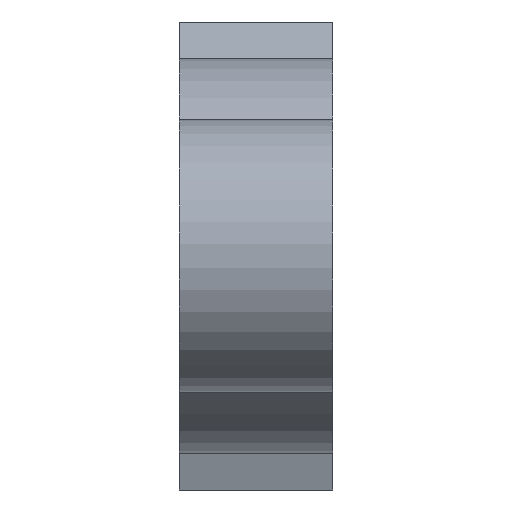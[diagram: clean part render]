
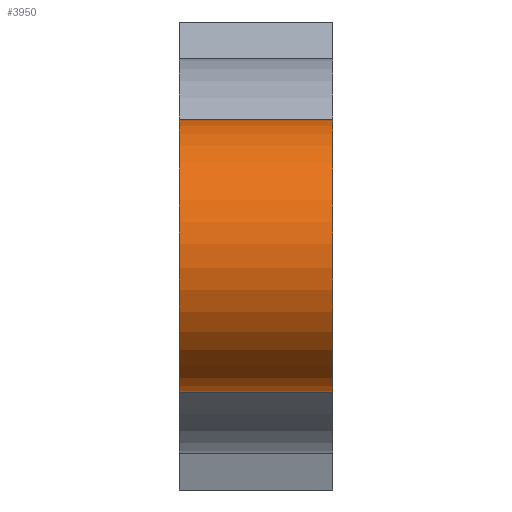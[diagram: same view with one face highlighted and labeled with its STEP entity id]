
A CAD part, left-side view. The second image highlights one B-rep face of the part: STEP entity #3950.
In plain terms, the highlighted cylindrical face has radius 8 mm (diameter 16 mm), a partial arc.
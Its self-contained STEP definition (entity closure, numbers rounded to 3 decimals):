
#21 = EDGE_CURVE('',#22,#24,#26,.T.);
#22 = VERTEX_POINT('',#23);
#23 = CARTESIAN_POINT('',(6.245,46.,-5.));
#24 = VERTEX_POINT('',#25);
#25 = CARTESIAN_POINT('',(6.245,46.,5.));
#26 = SURFACE_CURVE('',#27,(#32,#48),.PCURVE_S1.);
#27 = CIRCLE('',#28,8.);
#28 = AXIS2_PLACEMENT_3D('',#29,#30,#31);
#29 = CARTESIAN_POINT('',(0.,46.,0.));
#30 = DIRECTION('',(0.,1.,0.));
#31 = DIRECTION('',(0.781,0.,-0.625));
#32 = PCURVE('',#33,#38);
#33 = PLANE('',#34);
#34 = AXIS2_PLACEMENT_3D('',#35,#36,#37);
#35 = CARTESIAN_POINT('',(37.5,46.,0.));
#36 = DIRECTION('',(-0.,-1.,-0.));
#37 = DIRECTION('',(0.,0.,-1.));
#38 = DEFINITIONAL_REPRESENTATION('',(#39),#47);
#39 = ( BOUNDED_CURVE() B_SPLINE_CURVE(2,(#40,#41,#42,#43,#44,#45,#46),
.UNSPECIFIED.,.T.,.F.) B_SPLINE_CURVE_WITH_KNOTS((1,2,2,2,2,1),(
    -2.094,0.,2.094,4.189,6.283,
8.378),.UNSPECIFIED.) CURVE() GEOMETRIC_REPRESENTATION_ITEM() 
RATIONAL_B_SPLINE_CURVE((1.,0.5,1.,0.5,1.,0.5,1.)) REPRESENTATION_ITEM(
  '') );
#40 = CARTESIAN_POINT('',(5.,-31.255));
#41 = CARTESIAN_POINT('',(15.817,-39.915));
#42 = CARTESIAN_POINT('',(2.908,-44.953));
#43 = CARTESIAN_POINT('',(-10.,-49.99));
#44 = CARTESIAN_POINT('',(-7.908,-36.292));
#45 = CARTESIAN_POINT('',(-5.817,-22.595));
#46 = CARTESIAN_POINT('',(5.,-31.255));
#47 = ( GEOMETRIC_REPRESENTATION_CONTEXT(2) 
PARAMETRIC_REPRESENTATION_CONTEXT() REPRESENTATION_CONTEXT('2D SPACE',''
  ) );
#48 = PCURVE('',#49,#54);
#49 = CYLINDRICAL_SURFACE('',#50,8.);
#50 = AXIS2_PLACEMENT_3D('',#51,#52,#53);
#51 = CARTESIAN_POINT('',(0.,37.,0.));
#52 = DIRECTION('',(0.,-1.,-0.));
#53 = DIRECTION('',(1.,0.,0.));
#54 = DEFINITIONAL_REPRESENTATION('',(#55),#59);
#55 = LINE('',#56,#57);
#56 = CARTESIAN_POINT('',(-0.675,-9.));
#57 = VECTOR('',#58,1.);
#58 = DIRECTION('',(-1.,0.));
#59 = ( GEOMETRIC_REPRESENTATION_CONTEXT(2) 
PARAMETRIC_REPRESENTATION_CONTEXT() REPRESENTATION_CONTEXT('2D SPACE',''
  ) );
#77 = PLANE('',#78);
#78 = AXIS2_PLACEMENT_3D('',#79,#80,#81);
#79 = CARTESIAN_POINT('',(-10.,37.,-5.));
#80 = DIRECTION('',(0.,0.,1.));
#81 = DIRECTION('',(1.,0.,0.));
#3877 = PLANE('',#3878);
#3878 = AXIS2_PLACEMENT_3D('',#3879,#3880,#3881);
#3879 = CARTESIAN_POINT('',(-10.,37.,5.));
#3880 = DIRECTION('',(0.,0.,1.));
#3881 = DIRECTION('',(1.,0.,0.));
#3950 = ADVANCED_FACE('',(#3951),#49,.T.);
#3951 = FACE_BOUND('',#3952,.F.);
#3952 = EDGE_LOOP('',(#3953,#3984,#4003,#4004));
#3953 = ORIENTED_EDGE('',*,*,#3954,.F.);
#3954 = EDGE_CURVE('',#3955,#3957,#3959,.T.);
#3955 = VERTEX_POINT('',#3956);
#3956 = CARTESIAN_POINT('',(6.245,37.,-5.));
#3957 = VERTEX_POINT('',#3958);
#3958 = CARTESIAN_POINT('',(6.245,37.,5.));
#3959 = SURFACE_CURVE('',#3960,(#3965,#3972),.PCURVE_S1.);
#3960 = CIRCLE('',#3961,8.);
#3961 = AXIS2_PLACEMENT_3D('',#3962,#3963,#3964);
#3962 = CARTESIAN_POINT('',(0.,37.,0.));
#3963 = DIRECTION('',(0.,1.,0.));
#3964 = DIRECTION('',(0.781,0.,-0.625));
#3965 = PCURVE('',#49,#3966);
#3966 = DEFINITIONAL_REPRESENTATION('',(#3967),#3971);
#3967 = LINE('',#3968,#3969);
#3968 = CARTESIAN_POINT('',(-0.675,0.));
#3969 = VECTOR('',#3970,1.);
#3970 = DIRECTION('',(-1.,0.));
#3971 = ( GEOMETRIC_REPRESENTATION_CONTEXT(2) 
PARAMETRIC_REPRESENTATION_CONTEXT() REPRESENTATION_CONTEXT('2D SPACE',''
  ) );
#3972 = PCURVE('',#3973,#3978);
#3973 = PLANE('',#3974);
#3974 = AXIS2_PLACEMENT_3D('',#3975,#3976,#3977);
#3975 = CARTESIAN_POINT('',(0.,37.,0.)
  );
#3976 = DIRECTION('',(0.,1.,0.));
#3977 = DIRECTION('',(0.,-0.,1.));
#3978 = DEFINITIONAL_REPRESENTATION('',(#3979),#3983);
#3979 = CIRCLE('',#3980,8.);
#3980 = AXIS2_PLACEMENT_2D('',#3981,#3982);
#3981 = CARTESIAN_POINT('',(0.,0.));
#3982 = DIRECTION('',(-0.625,0.781));
#3983 = ( GEOMETRIC_REPRESENTATION_CONTEXT(2) 
PARAMETRIC_REPRESENTATION_CONTEXT() REPRESENTATION_CONTEXT('2D SPACE',''
  ) );
#3984 = ORIENTED_EDGE('',*,*,#3985,.F.);
#3985 = EDGE_CURVE('',#22,#3955,#3986,.T.);
#3986 = SURFACE_CURVE('',#3987,(#3991,#3997),.PCURVE_S1.);
#3987 = LINE('',#3988,#3989);
#3988 = CARTESIAN_POINT('',(6.245,37.,-5.));
#3989 = VECTOR('',#3990,1.);
#3990 = DIRECTION('',(0.,-1.,-0.));
#3991 = PCURVE('',#49,#3992);
#3992 = DEFINITIONAL_REPRESENTATION('',(#3993),#3996);
#3993 = B_SPLINE_CURVE_WITH_KNOTS('',1,(#3994,#3995),.UNSPECIFIED.,.F.,
  .F.,(2,2),(-9.,0.),.PIECEWISE_BEZIER_KNOTS.);
#3994 = CARTESIAN_POINT('',(-0.675,-9.));
#3995 = CARTESIAN_POINT('',(-0.675,0.));
#3996 = ( GEOMETRIC_REPRESENTATION_CONTEXT(2) 
PARAMETRIC_REPRESENTATION_CONTEXT() REPRESENTATION_CONTEXT('2D SPACE',''
  ) );
#3997 = PCURVE('',#77,#3998);
#3998 = DEFINITIONAL_REPRESENTATION('',(#3999),#4002);
#3999 = B_SPLINE_CURVE_WITH_KNOTS('',1,(#4000,#4001),.UNSPECIFIED.,.F.,
  .F.,(2,2),(-9.,0.),.PIECEWISE_BEZIER_KNOTS.);
#4000 = CARTESIAN_POINT('',(16.245,9.));
#4001 = CARTESIAN_POINT('',(16.245,0.));
#4002 = ( GEOMETRIC_REPRESENTATION_CONTEXT(2) 
PARAMETRIC_REPRESENTATION_CONTEXT() REPRESENTATION_CONTEXT('2D SPACE',''
  ) );
#4003 = ORIENTED_EDGE('',*,*,#21,.T.);
#4004 = ORIENTED_EDGE('',*,*,#4005,.T.);
#4005 = EDGE_CURVE('',#24,#3957,#4006,.T.);
#4006 = SURFACE_CURVE('',#4007,(#4011,#4017),.PCURVE_S1.);
#4007 = LINE('',#4008,#4009);
#4008 = CARTESIAN_POINT('',(6.245,37.,5.));
#4009 = VECTOR('',#4010,1.);
#4010 = DIRECTION('',(0.,-1.,-0.));
#4011 = PCURVE('',#49,#4012);
#4012 = DEFINITIONAL_REPRESENTATION('',(#4013),#4016);
#4013 = B_SPLINE_CURVE_WITH_KNOTS('',1,(#4014,#4015),.UNSPECIFIED.,.F.,
  .F.,(2,2),(-9.,0.),.PIECEWISE_BEZIER_KNOTS.);
#4014 = CARTESIAN_POINT('',(-5.608,-9.));
#4015 = CARTESIAN_POINT('',(-5.608,0.));
#4016 = ( GEOMETRIC_REPRESENTATION_CONTEXT(2) 
PARAMETRIC_REPRESENTATION_CONTEXT() REPRESENTATION_CONTEXT('2D SPACE',''
  ) );
#4017 = PCURVE('',#3877,#4018);
#4018 = DEFINITIONAL_REPRESENTATION('',(#4019),#4022);
#4019 = B_SPLINE_CURVE_WITH_KNOTS('',1,(#4020,#4021),.UNSPECIFIED.,.F.,
  .F.,(2,2),(-9.,0.),.PIECEWISE_BEZIER_KNOTS.);
#4020 = CARTESIAN_POINT('',(16.245,9.));
#4021 = CARTESIAN_POINT('',(16.245,0.));
#4022 = ( GEOMETRIC_REPRESENTATION_CONTEXT(2) 
PARAMETRIC_REPRESENTATION_CONTEXT() REPRESENTATION_CONTEXT('2D SPACE',''
  ) );
